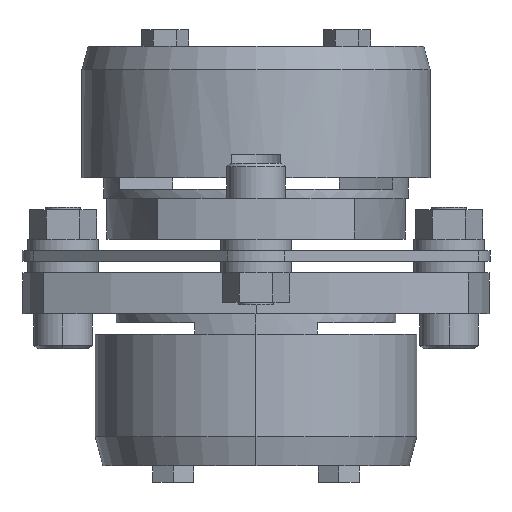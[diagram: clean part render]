
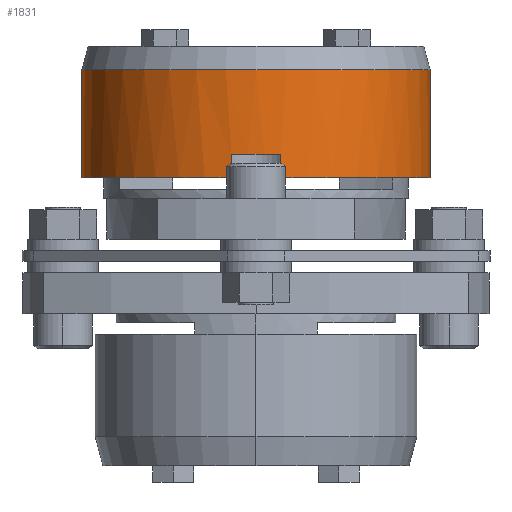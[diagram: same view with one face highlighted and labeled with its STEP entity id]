
A CAD part, front view. The second image highlights one B-rep face of the part: STEP entity #1831.
In plain terms, the highlighted cylindrical face has radius 29.75 mm (diameter 59.5 mm), a partial arc.
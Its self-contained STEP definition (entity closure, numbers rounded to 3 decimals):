
#1637=CARTESIAN_POINT('',(29.75,0.,31.875));
#1638=VERTEX_POINT('',#1637);
#1654=CARTESIAN_POINT('',(-29.75,0.,31.875));
#1655=VERTEX_POINT('',#1654);
#1662=CARTESIAN_POINT('',(0.,0.,31.875));
#1663=DIRECTION('',(0.0,0.0,1.0));
#1664=DIRECTION('',(1.0,0.0,0.0));
#1665=AXIS2_PLACEMENT_3D('',#1662,#1663,#1664);
#1666=CIRCLE('',#1665,29.75);
#1667=EDGE_CURVE('',#1655,#1638,#1666,.T.);
#1766=CARTESIAN_POINT('',(0.,0.,13.375));
#1767=DIRECTION('',(0.0,0.0,1.0));
#1768=DIRECTION('',(-1.0,0.0,0.0));
#1769=AXIS2_PLACEMENT_3D('',#1766,#1767,#1768);
#1770=CYLINDRICAL_SURFACE('',#1769,29.75);
#1771=CARTESIAN_POINT('',(-29.75,0.,13.375));
#1772=VERTEX_POINT('',#1771);
#1773=CARTESIAN_POINT('',(-29.75,0.,13.375));
#1774=DIRECTION('',(0.0,0.0,1.0));
#1775=VECTOR('',#1774,18.5);
#1776=LINE('',#1773,#1775);
#1777=EDGE_CURVE('',#1772,#1655,#1776,.T.);
#1778=ORIENTED_EDGE('',*,*,#1777,.F.);
#1779=CARTESIAN_POINT('',(-4.202,-29.452,13.375));
#1780=VERTEX_POINT('',#1779);
#1781=CARTESIAN_POINT('',(0.,0.,13.375));
#1782=DIRECTION('',(0.0,0.0,1.0));
#1783=DIRECTION('',(-1.0,0.0,0.0));
#1784=AXIS2_PLACEMENT_3D('',#1781,#1782,#1783);
#1785=CIRCLE('',#1784,29.75);
#1786=EDGE_CURVE('',#1772,#1780,#1785,.T.);
#1787=ORIENTED_EDGE('',*,*,#1786,.T.);
#1788=CARTESIAN_POINT('',(-4.202,-29.452,17.375));
#1789=VERTEX_POINT('',#1788);
#1790=CARTESIAN_POINT('',(-4.202,-29.452,13.375));
#1791=DIRECTION('',(0.0,0.0,1.0));
#1792=VECTOR('',#1791,4.0);
#1793=LINE('',#1790,#1792);
#1794=EDGE_CURVE('',#1780,#1789,#1793,.T.);
#1795=ORIENTED_EDGE('',*,*,#1794,.T.);
#1796=CARTESIAN_POINT('',(4.202,-29.452,17.375));
#1797=VERTEX_POINT('',#1796);
#1798=CARTESIAN_POINT('',(0.,0.,17.375));
#1799=DIRECTION('',(0.0,0.0,1.0));
#1800=DIRECTION('',(-1.0,0.0,0.0));
#1801=AXIS2_PLACEMENT_3D('',#1798,#1799,#1800);
#1802=CIRCLE('',#1801,29.75);
#1803=EDGE_CURVE('',#1789,#1797,#1802,.T.);
#1804=ORIENTED_EDGE('',*,*,#1803,.T.);
#1805=CARTESIAN_POINT('',(4.202,-29.452,13.375));
#1806=VERTEX_POINT('',#1805);
#1807=CARTESIAN_POINT('',(4.202,-29.452,17.375));
#1808=DIRECTION('',(0.0,0.0,-1.0));
#1809=VECTOR('',#1808,4.0);
#1810=LINE('',#1807,#1809);
#1811=EDGE_CURVE('',#1797,#1806,#1810,.T.);
#1812=ORIENTED_EDGE('',*,*,#1811,.T.);
#1813=CARTESIAN_POINT('',(29.75,0.,13.375));
#1814=VERTEX_POINT('',#1813);
#1815=CARTESIAN_POINT('',(0.,0.,13.375));
#1816=DIRECTION('',(0.0,0.0,1.0));
#1817=DIRECTION('',(-1.0,0.0,0.0));
#1818=AXIS2_PLACEMENT_3D('',#1815,#1816,#1817);
#1819=CIRCLE('',#1818,29.75);
#1820=EDGE_CURVE('',#1806,#1814,#1819,.T.);
#1821=ORIENTED_EDGE('',*,*,#1820,.T.);
#1822=CARTESIAN_POINT('',(29.75,0.,31.875));
#1823=DIRECTION('',(0.0,0.0,-1.0));
#1824=VECTOR('',#1823,18.5);
#1825=LINE('',#1822,#1824);
#1826=EDGE_CURVE('',#1638,#1814,#1825,.T.);
#1827=ORIENTED_EDGE('',*,*,#1826,.F.);
#1828=ORIENTED_EDGE('',*,*,#1667,.F.);
#1829=EDGE_LOOP('',(#1778,#1787,#1795,#1804,#1812,#1821,#1827,#1828));
#1830=FACE_OUTER_BOUND('',#1829,.T.);
#1831=ADVANCED_FACE('',(#1830),#1770,.T.);
